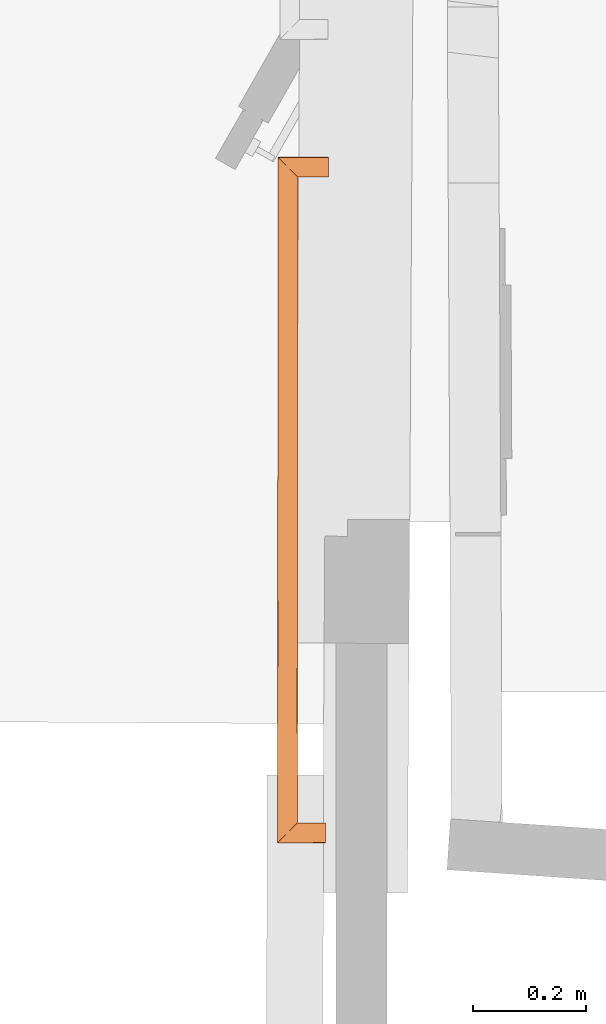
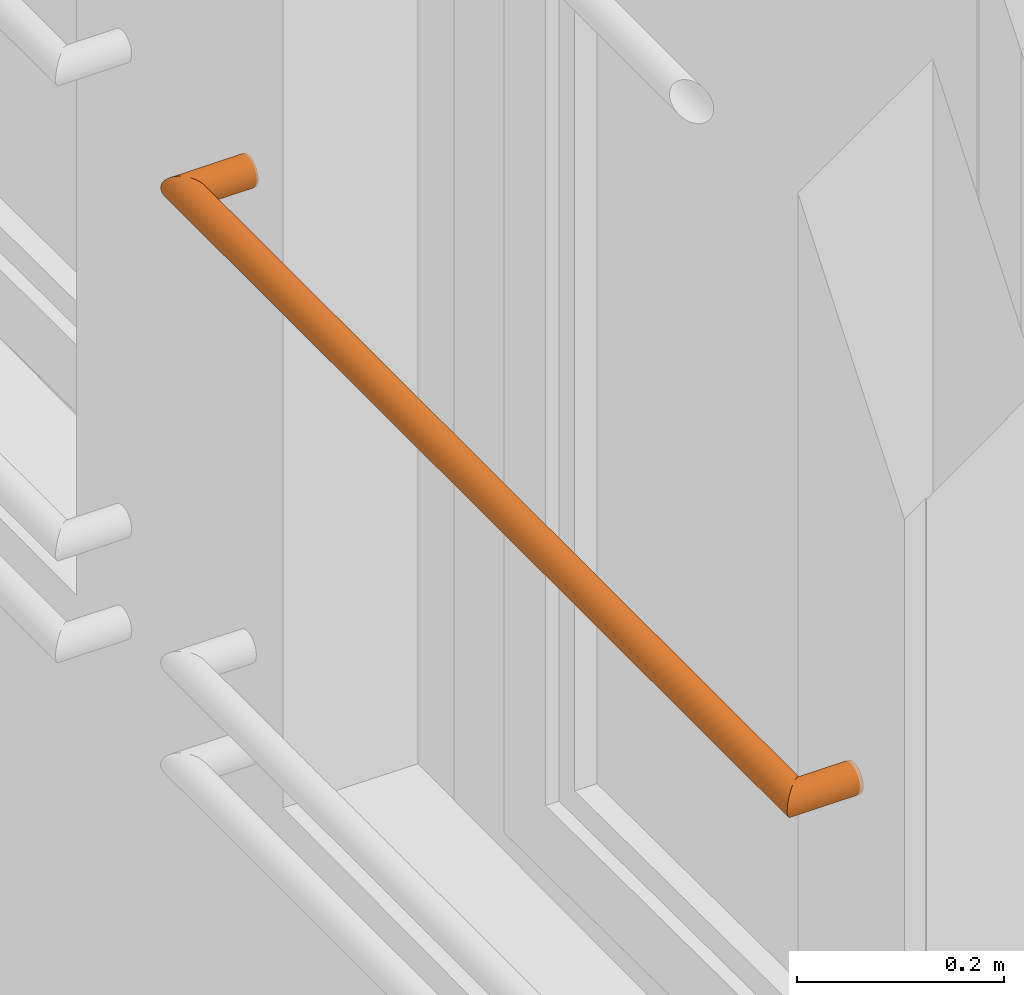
# One storey, part 87 of 97: 1 proxy.
"""IFC2X3 building model written with IfcOpenShell, lengths in centimetres."""

from ifc_helpers import new_model, entity, si_unit, converted_unit, direction, origin, origin_with_axes, place, context, subcontext, project, spatial, faceted_brep, material, type_object, element, save


model = new_model("IFC2X3")

# Units and contexts
model_context = context("Model", 3, precision=0.0001, world=origin(), true_north=direction((0.225632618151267, 0.974212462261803, 0.0)))
body_context = subcontext(model_context, "Body", "Model", "MODEL_VIEW")
ifc_project = project(units=[si_unit("LENGTHUNIT", "METRE", prefix="CENTI"), si_unit("AREAUNIT", "SQUARE_METRE", prefix="CENTI"), si_unit("VOLUMEUNIT", "CUBIC_METRE", prefix="CENTI"), converted_unit("PLANEANGLEUNIT", "DEGREE", entity("IfcRatioMeasure", 0.0174532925), si_unit("PLANEANGLEUNIT", "RADIAN"), dimensions=[0, 0, 0, 0, 0, 0, 0])], contexts=[model_context])

# Site, building, storey
site_placement = place(None, origin_with_axes())
site = spatial("IfcSite", under=ifc_project, at=site_placement, Name="Default Site", CompositionType="ELEMENT")
building_placement = place(site_placement, origin_with_axes())
building = spatial("IfcBuilding", under=site, at=building_placement, Name="Default Building", CompositionType="ELEMENT")
storey_placement = place(building_placement, origin_with_axes())
storey = spatial("IfcBuildingStorey", under=building, at=storey_placement, Name="Rez-de-chaussée", CompositionType="ELEMENT", Elevation=0.0)

# Proxy
ifc_material = material(Name="Aluminium mat")
building_element_proxy_type = type_object("IfcBuildingElementProxyType", Name="Profil [C] Ø35mm", PredefinedType="NOTDEFINED", material=ifc_material)
proxy_placement = place(storey_placement, origin_with_axes())
element("IfcBuildingElementProxy", 1, at=proxy_placement, inside=storey, type_object=building_element_proxy_type, material=ifc_material, Name="Extrusion (solide) 1702451", context=body_context, shape_type="Brep", body=[
    faceted_brep([(-1369.9275970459, -196.919238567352, 368.00000667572), (-1369.90098953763, -196.892673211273, 367.696117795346), (-1361.42749786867, -196.899515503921, 367.696117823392), (-1361.42759322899, -196.926102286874, 368.00000691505), (-1369.90098953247, -196.892666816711, 367.696118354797), (-1369.8220252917, -196.813776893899, 367.401459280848), (-1361.427497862, -196.820554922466, 367.401457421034), (-1361.42749786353, -196.89950912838, 367.696118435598), (-1369.82202529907, -196.813786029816, 367.401456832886), (-1369.69299317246, -196.684978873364, 367.12500563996), (-1361.42740250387, -196.691653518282, 367.125006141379), (-1361.4274978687, -196.820563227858, 367.40145398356), (-1369.69299316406, -196.684968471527, 367.125010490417), (-1369.51789855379, -196.510140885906, 366.875128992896), (-1361.42721175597, -196.516673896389, 366.875128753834), (-1361.42740249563, -196.69164331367, 367.12501110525), (-1369.51789855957, -196.510148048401, 366.875123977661), (-1369.30198669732, -196.294621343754, 366.659422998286), (-1361.42702102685, -196.300983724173, 366.65942639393), (-1361.42721176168, -196.516680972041, 366.875123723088), (-1369.30198669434, -196.294617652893, 366.659426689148), (-1369.05193328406, -196.044940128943, 366.484459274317), (-1361.42683028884, -196.051093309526, 366.48445644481), (-1361.42702102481, -196.300981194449, 366.659429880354), (-1369.05193328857, -196.044945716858, 366.484451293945), (-1368.77517700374, -195.768704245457, 366.35553361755), (-1361.42663955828, -195.774640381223, 366.355534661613), (-1361.42683029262, -196.051097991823, 366.48444898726), (-1368.77517700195, -195.768702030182, 366.355538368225), (-1368.48030090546, -195.474293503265, 366.276588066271), (-1361.42635345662, -195.479991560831, 366.276588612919), (-1361.42663955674, -195.774638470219, 366.355539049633), (-1368.48030090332, -195.474290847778, 366.276597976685), (-1368.17617416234, -195.170651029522, 366.25001145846), (-1361.42616271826, -195.176098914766, 366.25001122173), (-1361.42635345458, -195.479989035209, 366.276598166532), (-1368.17617416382, -195.170652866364, 366.249990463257), (-1367.87204742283, -194.867013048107, 366.276576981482), (-1361.425876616, -194.872210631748, 366.276577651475), (-1361.42616271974, -195.176100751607, 366.249990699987), (-1367.87204742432, -194.867014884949, 366.276597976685), (-1367.57717132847, -194.572595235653, 366.35555125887), (-1361.42568588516, -194.577566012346, 366.355550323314), (-1361.42587661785, -194.872212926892, 366.276599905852), (-1367.57717132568, -194.572591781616, 366.355538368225), (-1367.30051040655, -194.29636008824, 366.484451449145), (-1361.42539978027, -194.301104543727, 366.484451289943), (-1361.42568588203, -194.577562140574, 366.3555369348), (-1367.30051040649, -194.296360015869, 366.484451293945), (-1367.05045699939, -194.046674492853, 366.659424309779), (-1361.42520904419, -194.051216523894, 366.659424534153), (-1361.42539978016, -194.301104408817, 366.484451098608), (-1367.05045700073, -194.046676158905, 366.659426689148), (-1366.83454513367, -193.831155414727, 366.875121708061), (-1361.42501831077, -193.835521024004, 366.875124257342), (-1361.4252090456, -194.051218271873, 366.659426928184), (-1366.8345451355, -193.831157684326, 366.875123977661), (-1366.65945053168, -193.656326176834, 367.125011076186), (-1361.42492294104, -193.660554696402, 367.125008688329), (-1361.42501831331, -193.835524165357, 366.875126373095), (-1366.65945053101, -193.656325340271, 367.125010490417), (-1366.53041839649, -193.527520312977, 367.401457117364), (-1361.42482757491, -193.531643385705, 367.401456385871), (-1361.42492293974, -193.660553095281, 367.12500854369), (-1366.530418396, -193.527519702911, 367.401456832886), (-1366.45135879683, -193.448629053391, 367.696118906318), (-1361.42473220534, -193.452688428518, 367.696117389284), (-1361.42482757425, -193.531642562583, 367.401456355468), (-1366.45135879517, -193.448626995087, 367.696118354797), (-1366.42475127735, -193.422061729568, 368.000006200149), (-1361.42473221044, -193.426099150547, 368.000006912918), (-1361.42473220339, -193.452686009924, 367.696117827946), (-1366.42475128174, -193.422067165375, 368.00000667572), (-1366.45135879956, -193.448632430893, 368.303894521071), (-1361.42473220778, -193.452691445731, 368.303895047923), (-1361.42473221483, -193.426104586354, 368.000005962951), (-1366.45135879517, -193.448626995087, 368.303894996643), (-1366.53041838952, -193.527511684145, 368.598534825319), (-1361.42482756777, -193.531634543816, 368.598535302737), (-1361.42473220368, -193.452686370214, 368.303896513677), (-1366.530418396, -193.527519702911, 368.598532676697), (-1366.65945053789, -193.656333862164, 368.874998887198), (-1361.42492294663, -193.660561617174, 368.875000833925), (-1361.42482757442, -193.531642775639, 368.598533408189), (-1366.65945053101, -193.656325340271, 368.875002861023), (-1366.83454513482, -193.831156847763, 369.124889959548), (-1361.42501831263, -193.835523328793, 369.124887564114), (-1361.42492294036, -193.660553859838, 368.87500524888), (-1366.8345451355, -193.831157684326, 369.124889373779), (-1367.05045700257, -194.046678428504, 369.340584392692), (-1361.42520904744, -194.051220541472, 369.340584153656), (-1361.42501831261, -193.835523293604, 369.124886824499), (-1367.05045700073, -194.046676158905, 369.340586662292), (-1367.30051039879, -194.296350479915, 369.515551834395), (-1361.42539977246, -194.301094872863, 369.515552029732), (-1361.42520904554, -194.051218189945, 369.340586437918), (-1367.30051040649, -194.296360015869, 369.515538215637), (-1367.57717132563, -194.572591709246, 369.644451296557), (-1361.42568588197, -194.577562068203, 369.644452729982), (-1361.42539978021, -194.301104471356, 369.515538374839), (-1367.57717132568, -194.572591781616, 369.644451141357), (-1367.87204742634, -194.867017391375, 369.723406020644), (-1361.42587661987, -194.872215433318, 369.723404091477), (-1361.42568588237, -194.577562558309, 369.644452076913), (-1367.87204742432, -194.867014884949, 369.723415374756), (-1368.17617416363, -195.170652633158, 369.750001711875), (-1361.42616271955, -195.176100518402, 369.750001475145), (-1361.42587661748, -194.87221246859, 369.723414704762), (-1368.17617416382, -195.170652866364, 369.749999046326), (-1368.48030090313, -195.474290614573, 369.723412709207), (-1361.42635345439, -195.479988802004, 369.723412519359), (-1361.42616271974, -195.176100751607, 369.749999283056), (-1368.48030090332, -195.474290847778, 369.723415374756), (-1368.77517700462, -195.768705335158, 369.6444634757), (-1361.42663955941, -195.774641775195, 369.644462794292), (-1361.42635345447, -195.479988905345, 369.723414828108), (-1368.77517700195, -195.768702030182, 369.644451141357), (-1369.05193328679, -196.044943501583, 369.515533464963), (-1361.42683029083, -196.051095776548, 369.515535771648), (-1361.42663955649, -195.774638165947, 369.644450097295), (-1369.05193328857, -196.044945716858, 369.515538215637), (-1369.3019866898, -196.294612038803, 369.340578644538), (-1361.42702102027, -196.300975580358, 369.340575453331), (-1361.42683029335, -196.051098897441, 369.515541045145), (-1369.30198669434, -196.294617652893, 369.340586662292), (-1369.51789855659, -196.51014435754, 369.124885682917), (-1361.4272117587, -196.51667728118, 369.12488593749), (-1361.42702102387, -196.300980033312, 369.340583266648), (-1369.51789855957, -196.510148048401, 369.124889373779), (-1369.69299316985, -196.684975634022, 368.875007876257), (-1361.42740250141, -196.691650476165, 368.875007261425), (-1361.42721176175, -196.516681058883, 369.124889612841), (-1369.69299316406, -196.684968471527, 368.875002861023), (-1369.82202529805, -196.813784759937, 368.598532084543), (-1361.42749786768, -196.82056195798, 368.598534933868), (-1361.42740249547, -196.691643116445, 368.875002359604), (-1369.82202529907, -196.813786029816, 368.598532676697), (-1369.90098953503, -196.892669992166, 368.303895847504), (-1361.42749786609, -196.899512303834, 368.303895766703), (-1361.42749786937, -196.820564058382, 368.598534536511), (-1369.90098953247, -196.892666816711, 368.303894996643), (-1369.92759704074, -196.91923217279, 368.000006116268), (-1361.42759322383, -196.926095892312, 368.000005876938), (-1361.42749786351, -196.899509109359, 368.303894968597), (-1369.82975006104, -75.7247388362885, 368.00000667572), (-1369.80318441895, -75.7513284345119, 367.696114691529), (-1369.90100547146, -196.892666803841, 367.696116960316), (-1369.92761371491, -196.919238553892, 368.00000521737), (-1369.80314254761, -75.7513284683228, 367.696118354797), (-1369.72425340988, -75.8302748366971, 367.401462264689), (-1369.82195071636, -196.813786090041, 367.40147681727), (-1369.90096514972, -196.8926668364, 367.696124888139), (-1369.72427368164, -75.8302748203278, 367.401456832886), (-1369.59547922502, -75.9591937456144, 367.125033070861), (-1369.69296097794, -196.684968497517, 367.125025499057), (-1369.82197748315, -196.813786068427, 367.401479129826), (-1369.59552764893, -75.9591937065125, 367.125010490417), (-1369.42067254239, -76.1341631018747, 366.875089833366), (-1369.51789904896, -196.510148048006, 366.875123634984), (-1369.69300643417, -196.684968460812, 367.125001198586), (-1369.4206237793, -76.1341631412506, 366.875123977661), (-1369.20509698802, -76.3498604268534, 366.65942308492), (-1369.30197095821, -196.2946176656, 366.659442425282), (-1369.51786259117, -196.510148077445, 366.875159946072), (-1369.20509338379, -76.3498604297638, 366.659426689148), (-1368.95541581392, -76.5997409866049, 366.484459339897), (-1369.05190771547, -196.044945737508, 366.484487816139), (-1369.3019739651, -196.294617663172, 366.659444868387), (-1368.95542144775, -76.5997409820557, 366.484451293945), (-1368.67922889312, -76.8762052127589, 366.355556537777), (-1368.77518019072, -195.768702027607, 366.355531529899), (-1369.05192246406, -196.044945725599, 366.484474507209), (-1368.67923736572, -76.8762052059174, 366.355538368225), (-1368.38483994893, -77.1708548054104, 366.276591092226), (-1368.48030720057, -195.474290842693, 366.276574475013), (-1368.77518137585, -195.76870202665, 366.355522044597), (-1368.38483810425, -77.1708548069, 366.276597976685), (-1368.08118645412, -77.4747371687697, 366.25001044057), (-1368.17617281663, -195.170652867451, 366.250005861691), (-1368.48030140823, -195.474290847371, 366.276592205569), (-1368.0811882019, -77.4747371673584, 366.249990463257), (-1367.77753655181, -77.7786254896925, 366.276577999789), (-1367.87204597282, -194.867014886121, 366.276581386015), (-1368.17617456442, -195.17065286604, 366.249995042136), (-1367.77753829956, -77.7786254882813, 366.276597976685), (-1367.48314088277, -78.0732750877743, 366.355545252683), (-1367.57717586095, -194.572591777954, 366.355555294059), (-1367.87205003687, -194.867014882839, 366.276607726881), (-1367.48313903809, -78.0732750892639, 366.355538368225), (-1367.20686814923, -78.349739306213, 366.484469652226), (-1367.30051456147, -194.296360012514, 366.484460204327), (-1367.57717849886, -194.572591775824, 366.355553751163), (-1367.20685958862, -78.3497393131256, 366.484451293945), (-1366.95718201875, -78.5996198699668, 366.659418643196), (-1367.05043603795, -194.046676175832, 366.659396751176), (-1367.30050229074, -194.296360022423, 366.484439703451), (-1366.95718765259, -78.5996198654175, 366.659426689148), (-1366.74166086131, -78.8153171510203, 366.875127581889), (-1366.83454208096, -193.831157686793, 366.875120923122), (-1367.05043370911, -194.046676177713, 366.659403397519), (-1366.74165725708, -78.8153171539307, 366.875123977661), (-1366.56683352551, -78.9902866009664, 367.124999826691), (-1366.65942880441, -193.656325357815, 367.124995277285), (-1366.83453619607, -193.831157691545, 366.875117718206), (-1366.56684875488, -78.9902865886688, 367.125010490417), (-1366.43803726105, -79.1191994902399, 367.401470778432), (-1366.53042607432, -193.527519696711, 367.401460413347), (-1366.65944257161, -193.656325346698, 367.125006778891), (-1366.43800735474, -79.119199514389, 367.401456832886), (-1366.3591182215, -79.1981518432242, 367.696112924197), (-1366.45137231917, -193.448626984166, 367.696121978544), (-1366.53039314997, -193.527519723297, 367.401450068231), (-1366.35913848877, -79.1981518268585, 367.696118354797), (-1366.33257284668, -79.224741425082, 368.000010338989), (-1366.42478650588, -193.422067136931, 368.000009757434), (-1366.45139473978, -193.448626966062, 367.696121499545), (-1366.33253097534, -79.2247414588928, 368.00000667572), (-1366.35909661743, -79.1981518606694, 368.303898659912), (-1366.45135286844, -193.448626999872, 368.303895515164), (-1366.42474463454, -193.422067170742, 368.000007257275), (-1366.35913848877, -79.1981518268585, 368.303894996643), (-1366.43802166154, -79.1191995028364, 368.598528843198), (-1366.53040745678, -193.527519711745, 368.598535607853), (-1366.45139258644, -193.4486269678, 368.303885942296), (-1366.43800735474, -79.119199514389, 368.598532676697), (-1366.56682798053, -78.990286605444, 368.875012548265), (-1366.65942179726, -193.656325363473, 368.875016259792), (-1366.53039616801, -193.52751972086, 368.598543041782), (-1366.56684875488, -78.9902865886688, 368.875002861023), (-1366.74167248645, -78.815317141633, 369.124878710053), (-1366.83455142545, -193.831157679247, 369.124884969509), (-1366.65944403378, -193.656325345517, 368.875007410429), (-1366.74165725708, -78.8153171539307, 369.124889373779), (-1366.95718404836, -78.5996198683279, 369.34059026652), (-1367.05043010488, -194.046676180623, 369.340613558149), (-1366.83453847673, -193.831157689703, 369.124896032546), (-1366.95718765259, -78.5996198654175, 369.340586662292), (-1367.20685402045, -78.3497393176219, 369.515546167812), (-1367.30049672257, -194.296360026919, 369.515557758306), (-1367.05044167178, -194.046676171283, 369.340608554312), (-1367.20685958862, -78.3497393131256, 369.515538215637), (-1367.48313047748, -78.0732750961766, 369.644469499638), (-1367.57716993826, -194.572591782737, 369.6444541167), (-1367.30050600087, -194.296360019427, 369.515547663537), (-1367.48313903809, -78.0732750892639, 369.644451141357), (-1367.77754241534, -77.7786254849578, 369.723400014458), (-1367.87205415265, -194.867014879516, 369.723390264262), (-1367.57717401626, -194.572591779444, 369.644441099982), (-1367.77753829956, -77.7786254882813, 369.723415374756), (-1368.08118787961, -77.4747371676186, 369.750002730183), (-1368.17617424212, -195.1706528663, 369.749998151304), (-1367.87204772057, -194.86701488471, 369.723411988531), (-1368.0811882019, -77.4747371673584, 369.749999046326), (-1368.38483778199, -77.1708548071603, 369.723411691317), (-1368.48030108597, -195.474290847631, 369.723417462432), (-1368.17617456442, -195.17065286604, 369.750003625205), (-1368.38483810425, -77.1708548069, 369.723415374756), (-1368.6792414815, -76.8762052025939, 369.644466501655), (-1368.77518549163, -195.768702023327, 369.644482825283), (-1368.48030535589, -195.474290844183, 369.723431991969), (-1368.67923736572, -76.8762052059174, 369.644451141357), (-1368.95542992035, -76.5997409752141, 369.515556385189), (-1369.05193093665, -196.044945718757, 369.515533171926), (-1368.77518866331, -195.768702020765, 369.644476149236), (-1368.95542144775, -76.5997409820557, 369.515538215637), (-1369.20508781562, -76.3498604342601, 369.340578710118), (-1369.30196839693, -196.294617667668, 369.340560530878), (-1369.0519133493, -196.044945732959, 369.515509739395), (-1369.20509338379, -76.3498604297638, 369.340586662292), (-1369.42062017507, -76.134163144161, 369.124885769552), (-1369.51785898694, -196.510148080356, 369.12484980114), (-1369.30196735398, -196.29461766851, 369.340567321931), (-1369.4206237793, -76.1341631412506, 369.124889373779), (-1369.59547888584, -75.9591937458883, 368.874968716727), (-1369.69295767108, -196.684968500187, 368.874978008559), (-1369.51785028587, -196.510148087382, 369.124855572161), (-1369.59552764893, -75.9591937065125, 368.875002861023), (-1369.7243312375, -75.8302747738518, 368.598559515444), (-1369.82203503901, -196.813786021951, 368.598537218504), (-1369.69300940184, -196.684968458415, 368.875010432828), (-1369.72427368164, -75.8302748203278, 368.598532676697), (-1369.8031568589, -75.7513284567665, 368.303898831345), (-1369.90097946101, -196.892666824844, 368.303892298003), (-1369.82197098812, -196.813786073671, 368.598518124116), (-1369.80314254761, -75.7513284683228, 368.303894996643), (-1369.8297081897, -75.7247388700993, 368.000003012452), (-1369.92757184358, -196.919238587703, 368.000004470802), (-1369.90096360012, -196.892666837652, 368.303892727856), (-1360.93978881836, -75.7247388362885, 368.00000667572), (-1360.93978881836, -75.7513256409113, 367.696118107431), (-1369.80314254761, -75.7513256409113, 367.696118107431), (-1369.82975006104, -75.7247388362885, 368.00000667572), (-1360.93978881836, -75.7513284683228, 367.696118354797), (-1360.93978881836, -75.8302822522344, 367.401458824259), (-1369.72427368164, -75.8302822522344, 367.401458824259), (-1360.93978881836, -75.8302748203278, 367.401456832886), (-1360.93978881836, -75.9591856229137, 367.125006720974), (-1369.59552764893, -75.9591856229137, 367.125006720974), (-1360.93978881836, -75.9591937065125, 367.125010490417), (-1360.93978881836, -76.1341651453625, 366.875125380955), (-1369.4206237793, -76.1341651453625, 366.875125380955), (-1369.59552764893, -75.9591937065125, 367.125010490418), (-1360.93978881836, -76.1341631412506, 366.875123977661), (-1360.93978881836, -76.3498604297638, 366.659426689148), (-1360.93978881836, -76.5997443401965, 366.484456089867), (-1368.95542144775, -76.5997443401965, 366.484456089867), (-1360.93978881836, -76.5997409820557, 366.484451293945), (-1360.93978881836, -76.8762034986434, 366.355534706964), (-1368.67923736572, -76.8762034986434, 366.355534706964), (-1360.93978881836, -76.8762052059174, 366.355538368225), (-1360.93978881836, -77.1708521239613, 366.276587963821), (-1368.38483810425, -77.1708521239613, 366.276587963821), (-1360.93978881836, -77.1708548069, 366.276597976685), (-1360.93978881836, -77.474739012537, 366.250011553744), (-1368.0811882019, -77.474739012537, 366.250011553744), (-1360.93978881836, -77.4747371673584, 366.249990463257), (-1360.93978881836, -77.7786272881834, 366.276577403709), (-1367.77753829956, -77.7786272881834, 366.276577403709), (-1360.93978881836, -77.7786254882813, 366.276597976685), (-1360.93978881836, -78.0732724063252, 366.355548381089), (-1367.48313903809, -78.0732724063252, 366.355548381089), (-1367.77753829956, -77.7786254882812, 366.276597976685), (-1360.93978881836, -78.0732750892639, 366.355538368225), (-1360.93978881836, -78.3497376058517, 366.484454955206), (-1367.20685958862, -78.3497376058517, 366.484454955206), (-1360.93978881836, -78.3497393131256, 366.484451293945), (-1360.93978881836, -78.5996232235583, 366.659421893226), (-1366.95718765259, -78.5996232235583, 366.659421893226), (-1360.93978881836, -78.5996198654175, 366.659426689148), (-1360.93978881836, -78.8153171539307, 366.875123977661), (-1366.74165725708, -78.8153171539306, 366.875123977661), (-1366.95718765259, -78.5996198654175, 366.659426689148), (-1360.93978881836, -78.9902885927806, 367.125009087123), (-1366.56684875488, -78.9902885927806, 367.125009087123), (-1360.93978881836, -78.9902865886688, 367.125010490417), (-1360.93978881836, -79.1191963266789, 367.401458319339), (-1366.43800735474, -79.1191963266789, 367.401458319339), (-1360.93978881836, -79.119199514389, 367.401456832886), (-1360.93978881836, -79.1981536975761, 367.69611785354), (-1366.35913848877, -79.198153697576, 367.69611785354), (-1360.93978881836, -79.1981518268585, 367.696118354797), (-1360.93978881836, -79.2247386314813, 368.000006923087), (-1366.33253097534, -79.2247386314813, 368.000006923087), (-1360.93978881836, -79.2247414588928, 368.00000667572), (-1360.93978881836, -79.19815465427, 368.303895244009), (-1366.35913848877, -79.19815465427, 368.303895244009), (-1360.93978881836, -79.1981518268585, 368.303894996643), (-1360.93978881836, -79.119203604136, 368.598533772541), (-1366.43800735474, -79.1192036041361, 368.598533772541), (-1360.93978881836, -79.119199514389, 368.598532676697), (-1360.93978881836, -78.9902806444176, 368.875000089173), (-1366.56684875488, -78.9902806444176, 368.875000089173), (-1360.93978881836, -78.9902865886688, 368.875002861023), (-1360.93978881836, -78.8153151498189, 369.124887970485), (-1366.74165725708, -78.8153151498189, 369.124887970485), (-1366.56684875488, -78.9902865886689, 368.875002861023), (-1360.93978881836, -78.8153171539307, 369.124889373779), (-1360.93978881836, -78.5996198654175, 369.340586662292), (-1360.93978881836, -78.3497471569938, 369.515549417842), (-1367.20685958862, -78.3497471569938, 369.515549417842), (-1366.95718765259, -78.5996198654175, 369.340586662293), (-1360.93978881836, -78.3497393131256, 369.515538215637), (-1360.93978881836, -78.0732767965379, 369.644454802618), (-1367.48313903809, -78.0732767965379, 369.644454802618), (-1360.93978881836, -78.0732750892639, 369.644451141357), (-1360.93978881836, -77.7786222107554, 369.723403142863), (-1367.77753829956, -77.7786222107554, 369.723403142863), (-1367.48313903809, -78.0732750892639, 369.644451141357), (-1360.93978881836, -77.7786254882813, 369.723415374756), (-1360.93978881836, -77.4747374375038, 369.750002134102), (-1368.0811882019, -77.4747374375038, 369.750002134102), (-1360.93978881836, -77.4747371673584, 369.749999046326), (-1360.93978881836, -77.1708550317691, 369.723412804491), (-1368.38483810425, -77.1708550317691, 369.723412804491), (-1360.93978881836, -77.1708548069, 369.723415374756), (-1360.93978881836, -76.8762019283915, 369.64446337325), (-1368.67923736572, -76.8762019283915, 369.64446337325), (-1360.93978881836, -76.8762052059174, 369.644451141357), (-1360.93978881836, -76.5997426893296, 369.515534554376), (-1368.95542144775, -76.5997426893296, 369.515534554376), (-1368.67923736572, -76.8762052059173, 369.644451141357), (-1360.93978881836, -76.5997409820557, 369.515538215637), (-1360.93978881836, -76.3498682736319, 369.340575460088), (-1369.20509338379, -76.3498682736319, 369.340575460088), (-1368.95542144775, -76.5997409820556, 369.515538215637), (-1360.93978881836, -76.3498604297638, 369.340586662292), (-1360.93978881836, -76.1341631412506, 369.124889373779), (-1369.20509338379, -76.3498604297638, 369.340586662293), (-1360.93978881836, -75.9591917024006, 368.875004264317), (-1369.59552764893, -75.9591917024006, 368.875004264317), (-1369.4206237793, -76.1341631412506, 369.124889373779), (-1360.93978881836, -75.9591937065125, 368.875002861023), (-1360.93978881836, -75.8302737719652, 368.598533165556), (-1369.72427368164, -75.8302737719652, 368.598533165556), (-1360.93978881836, -75.8302748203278, 368.598532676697), (-1360.93978881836, -75.7513269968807, 368.303895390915), (-1369.80314254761, -75.7513269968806, 368.303895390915), (-1369.72427368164, -75.8302748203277, 368.598532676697), (-1360.93978881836, -75.7513284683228, 368.303894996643), (-1360.93978881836, -75.7247416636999, 368.000006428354), (-1369.82975006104, -75.7247416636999, 368.000006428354), (-1369.80314254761, -75.7513284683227, 368.303894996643), (-1361.4275932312, -196.92610502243, 368.00000667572), (-1361.42757175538, -196.899509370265, 367.696118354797), (-1361.42750800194, -196.820557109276, 367.401456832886), (-1361.42740390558, -196.691644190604, 367.125010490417), (-1361.42726262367, -196.516680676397, 366.875123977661), (-1361.42708844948, -196.300983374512, 366.659426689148), (-1361.42688666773, -196.051096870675, 366.484451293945), (-1361.42666342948, -195.774638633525, 366.355538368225), (-1361.42642550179, -195.479988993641, 366.276597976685), (-1361.42618011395, -195.17610071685, 366.249990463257), (-1361.42593472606, -194.872212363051, 366.276597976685), (-1361.42569679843, -194.577562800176, 366.355538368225), (-1361.42547356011, -194.301104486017, 366.484451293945), (-1361.42527177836, -194.05121798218, 366.659426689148), (-1361.42509760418, -193.835520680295, 366.875123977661), (-1361.42495632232, -193.660557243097, 367.125010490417), (-1361.42485222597, -193.531644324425, 367.401456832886), (-1361.42478847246, -193.452691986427, 367.696118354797), (-1361.4247669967, -193.42609641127, 368.00000667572), (-1361.42478847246, -193.452691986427, 368.303894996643), (-1361.42485222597, -193.531644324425, 368.598532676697), (-1361.42495632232, -193.660557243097, 368.875002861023), (-1361.42509760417, -193.835520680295, 369.124889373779), (-1361.42527177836, -194.05121798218, 369.340586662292), (-1361.42547356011, -194.301104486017, 369.515538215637), (-1361.42569679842, -194.577562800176, 369.644451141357), (-1361.42593472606, -194.872212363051, 369.723415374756), (-1361.42618011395, -195.17610071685, 369.749999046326), (-1361.42642550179, -195.479988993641, 369.723415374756), (-1361.42666342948, -195.774638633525, 369.644451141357), (-1361.42688666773, -196.051096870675, 369.515538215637), (-1361.42708844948, -196.300983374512, 369.340586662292), (-1361.42726262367, -196.516680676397, 369.124889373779), (-1361.42740390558, -196.691644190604, 368.875002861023), (-1361.42750800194, -196.820557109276, 368.598532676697), (-1361.42757175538, -196.899509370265, 368.303894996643)], [[[0, 1, 2, 3]], [[4, 5, 6, 7]], [[8, 9, 10, 11]], [[12, 13, 14, 15]], [[16, 17, 18, 19]], [[20, 21, 22, 23]], [[24, 25, 26, 27]], [[28, 29, 30, 31]], [[32, 33, 34, 35]], [[36, 37, 38, 39]], [[40, 41, 42, 43]], [[44, 45, 46, 47]], [[48, 49, 50, 51]], [[52, 53, 54, 55]], [[56, 57, 58, 59]], [[60, 61, 62, 63]], [[64, 65, 66, 67]], [[68, 69, 70, 71]], [[72, 73, 74, 75]], [[76, 77, 78, 79]], [[80, 81, 82, 83]], [[84, 85, 86, 87]], [[88, 89, 90, 91]], [[92, 93, 94, 95]], [[96, 97, 98, 99]], [[100, 101, 102, 103]], [[104, 105, 106, 107]], [[108, 109, 110, 111]], [[112, 113, 114, 115]], [[116, 117, 118, 119]], [[120, 121, 122, 123]], [[124, 125, 126, 127]], [[128, 129, 130, 131]], [[132, 133, 134, 135]], [[136, 137, 138, 139]], [[140, 141, 142, 143]], [[144, 145, 146, 147]], [[148, 149, 150, 151]], [[152, 153, 154, 155]], [[156, 157, 158, 159]], [[160, 161, 162, 163]], [[164, 165, 166, 167]], [[168, 169, 170, 171]], [[172, 173, 174, 175]], [[176, 177, 178, 179]], [[180, 181, 182, 183]], [[184, 185, 186, 187]], [[188, 189, 190, 191]], [[192, 193, 194, 195]], [[196, 197, 198, 199]], [[200, 201, 202, 203]], [[204, 205, 206, 207]], [[208, 209, 210, 211]], [[212, 213, 214, 215]], [[216, 217, 218, 219]], [[220, 221, 222, 223]], [[224, 225, 226, 227]], [[228, 229, 230, 231]], [[232, 233, 234, 235]], [[236, 237, 238, 239]], [[240, 241, 242, 243]], [[244, 245, 246, 247]], [[248, 249, 250, 251]], [[252, 253, 254, 255]], [[256, 257, 258, 259]], [[260, 261, 262, 263]], [[264, 265, 266, 267]], [[268, 269, 270, 271]], [[272, 273, 274, 275]], [[276, 277, 278, 279]], [[280, 281, 282, 283]], [[284, 285, 286, 287]], [[288, 289, 290, 291]], [[292, 293, 294, 148]], [[295, 296, 297, 152]], [[298, 299, 300, 301]], [[302, 303, 164, 160]], [[303, 304, 305, 164]], [[306, 307, 308, 168]], [[309, 310, 311, 172]], [[312, 313, 314, 176]], [[315, 316, 317, 180]], [[318, 319, 320, 321]], [[322, 323, 324, 188]], [[325, 326, 327, 192]], [[328, 329, 330, 331]], [[329, 332, 333, 330]], [[334, 335, 336, 204]], [[337, 338, 339, 208]], [[340, 341, 342, 212]], [[343, 344, 345, 216]], [[346, 347, 348, 220]], [[349, 350, 351, 224]], [[352, 353, 354, 355]], [[356, 357, 236, 232]], [[357, 358, 359, 360]], [[361, 362, 363, 240]], [[364, 365, 366, 367]], [[368, 369, 370, 248]], [[371, 372, 373, 252]], [[374, 375, 376, 256]], [[377, 378, 379, 380]], [[381, 382, 383, 384]], [[385, 386, 272, 387]], [[386, 388, 389, 390]], [[391, 392, 393, 276]], [[394, 395, 396, 397]], [[398, 399, 400, 401]], [[402, 403, 404, 405, 406, 407, 408, 409, 410, 411, 412, 413, 414, 415, 416, 417, 418, 419, 420, 421, 422, 423, 424, 425, 426, 427, 428, 429, 430, 431, 432, 433, 434, 435, 436, 437]], [[398, 394, 391, 386, 385, 381, 377, 374, 371, 368, 364, 361, 357, 356, 352, 349, 346, 343, 340, 337, 334, 329, 328, 325, 322, 318, 315, 312, 309, 306, 303, 302, 298, 295, 292, 288]]]),
])

save(model, "model.ifc")
